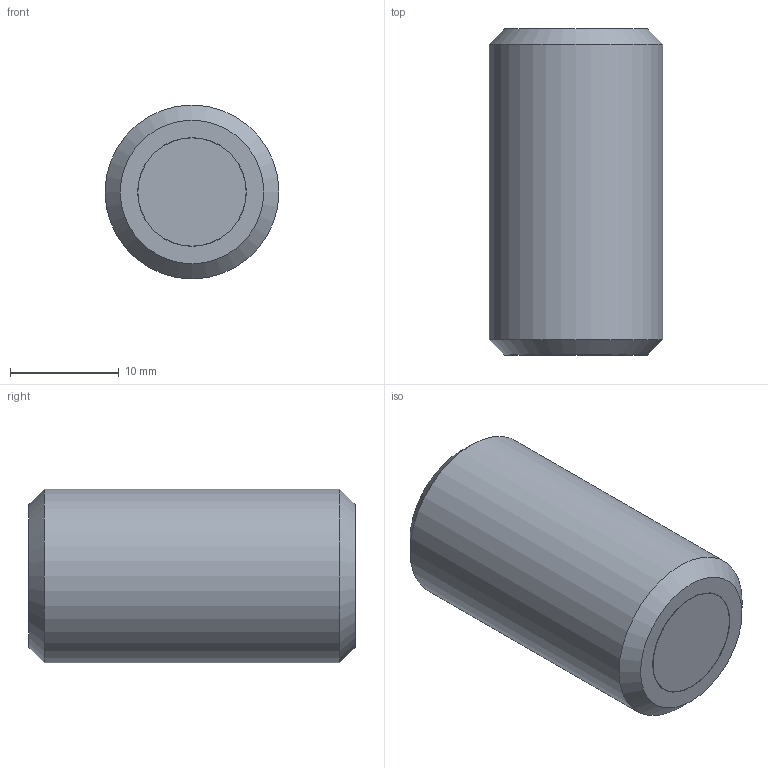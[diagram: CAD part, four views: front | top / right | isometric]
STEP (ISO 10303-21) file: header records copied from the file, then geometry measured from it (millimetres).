
FILE_DESCRIPTION(/* description */ ('STEP AP214'),/* implementation_level */ '2;1');
FILE_NAME(/* name */ 'Grub screw with retaining magnet GN 913.6-M16-30-ND',/* time_stamp */ '2023-10-03T11:28:16+02:00',/* author */ ('License CC BY-ND 4.0'),/* organization */ ('CADENAS'),/* preprocessor_version */ 'ST-DEVELOPER v19.3',/* originating_system */ 'PARTsolutions',/* authorisation */ ' ');
FILE_SCHEMA (('AUTOMOTIVE_DESIGN {1 0 10303 214 3 1 1}'));
Length unit declared in the file: millimetre
Products named in the file (1): Grub screw with retaining magnet GN 913.6-M16-30-ND
Bounding box: 16 x 30 x 16 mm (x, y, z)
Volume: 5476.9 mm3; surface area: 2043.3 mm2
Topology: 1 solids, 1 shells, 22 faces, 45 edges, 27 vertices
Faces by surface type: plane 16, cone 3, cylinder 3
Full cylindrical faces by diameter (mm): 9.96 x1, 10 x1, 16 x1
Entity records: 566 total; most frequent: DIRECTION 98, CARTESIAN_POINT 88, ORIENTED_EDGE 76, EDGE_CURVE 38, AXIS2_PLACEMENT_3D 37, FACE_BOUND 31, EDGE_LOOP 30, VERTEX_POINT 27
